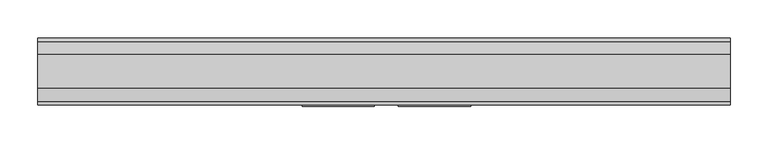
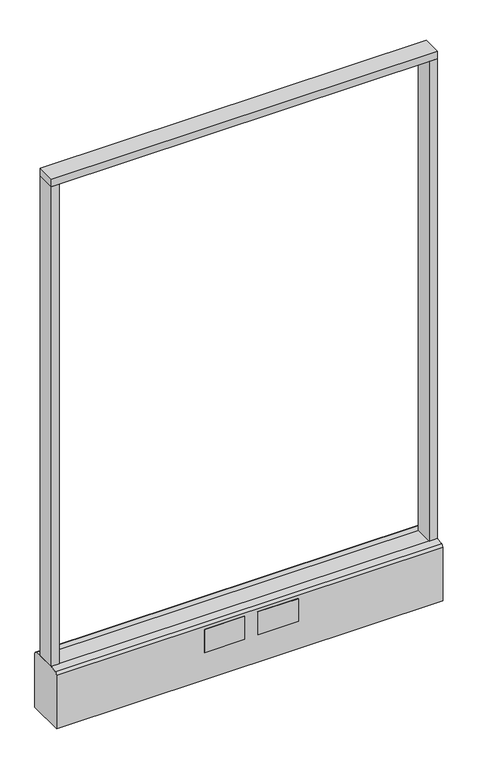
"""IFC4 building model written with IfcOpenShell, lengths in millimetres: furniture geometry."""

from ifc_helpers import new_model, si_unit, point, frame, frame_2d, origin, origin_with_axes, place, context, project, spatial, polyline, circle_curve, trimmed, segment, composite_curve, outline, extrude, source, transform, mapped, element, save


def furniture_1125ae4c(model_context):
    return source(origin(), model_context, "Body", "SweptSolid", [
        extrude(outline(polyline([(457.2, -22.225), (-457.2, -22.225), (-457.2, 22.225), (457.2, 22.225), (457.2, -22.225)])), frame((0.0, 0.0, 1352.55), z_axis=(0.0, 0.0, 1.0), x_axis=(1.0, 0.0, 0.0)), (0.0, 0.0, 1.0), 19.05),
        extrude(outline(composite_curve([segment(trimmed(circle_curve(frame_2d((-381.0, 0.0)), 23.415625), [point((-404.415625, 0.0))], [point((-357.584375, 0.0))], False, "CARTESIAN"), True, "CONTINUOUS"), segment(trimmed(circle_curve(frame_2d((-381.0, 0.0)), 23.415625), [point((-357.584375, 0.0))], [point((-404.415625, 0.0))], False, "CARTESIAN"), True, "CONTINUOUS")], self_intersect=False)), origin_with_axes(), (0.0, 0.0, 1.0), 6.35),
        extrude(outline(composite_curve([segment(trimmed(circle_curve(frame_2d((381.0, 0.0)), 23.415625), [point((357.584375, 0.0))], [point((404.415625, 0.0))], False, "CARTESIAN"), True, "CONTINUOUS"), segment(trimmed(circle_curve(frame_2d((381.0, 0.0)), 23.415625), [point((404.415625, 0.0))], [point((357.584375, 0.0))], False, "CARTESIAN"), True, "CONTINUOUS")], self_intersect=False)), origin_with_axes(), (0.0, 0.0, 1.0), 6.35),
        extrude(outline(polyline([(-438.1500091, -22.225), (-457.2, -22.225), (-457.2, 22.225), (-438.1500091, 22.225), (-438.1500091, -22.225)])), frame((0.0, 0.0, 152.4), z_axis=(0.0, 0.0, 1.0), x_axis=(1.0, 0.0, 0.0)), (0.0, 0.0, 1.0), 1200.15),
        extrude(outline(polyline([(457.2, -22.225), (438.1500091, -22.225), (438.1500091, 22.225), (457.2, 22.225), (457.2, -22.225)])), frame((0.0, 0.0, 152.4), z_axis=(0.0, 0.0, 1.0), x_axis=(1.0, 0.0, 0.0)), (0.0, 0.0, 1.0), 1200.15),
        extrude(outline(composite_curve([segment(polyline([(-22.225, 152.4), (22.225, 152.4), (39.43219, 149.94183)]), True, "CONTINUOUS"), segment(trimmed(circle_curve(frame_2d((38.605678, 144.1562464)), 5.844322), [point((39.43219, 149.94183))], [point((44.45, 144.1562464))], False, "CARTESIAN"), True, "CONTINUOUS"), segment(polyline([(44.45, 144.1562464), (44.45, 9.525), (-44.4433083, 9.525), (-44.4433083, 144.1572033)]), True, "CONTINUOUS"), segment(trimmed(circle_curve(frame_2d((-38.5989863, 144.1572033)), 5.844322), [point((-44.4433083, 144.1572033))], [point((-39.4222979, 149.9432432))], False, "CARTESIAN"), True, "CONTINUOUS"), segment(polyline([(-39.4222979, 149.9432432), (-22.225, 152.4)]), True, "CONTINUOUS")], self_intersect=False)), frame((-457.2, 0.0, 0.0), z_axis=(1.0, 0.0, 0.0), x_axis=(0.0, 1.0, 0.0)), (0.0, 0.0, 1.0), 914.4),
        extrude(outline(polyline([(114.3, -46.0375), (19.05, -46.0375), (19.05, -44.45), (114.3, -44.45), (114.3, -46.0375)])), frame((0.0, 0.0, 79.1718), z_axis=(0.0, 0.0, 1.0), x_axis=(1.0, 0.0, 0.0)), (0.0, 0.0, 1.0), 57.15),
        extrude(outline(polyline([(-12.7, -46.0375), (-107.95, -46.0375), (-107.95, -44.45), (-12.7, -44.45), (-12.7, -46.0375)])), frame((0.0, 0.0, 79.1718), z_axis=(0.0, 0.0, 1.0), x_axis=(1.0, 0.0, 0.0)), (0.0, 0.0, 1.0), 57.15),
        extrude(outline(composite_curve([segment(trimmed(circle_curve(frame_2d((-381.0, 0.0)), 5.55625), [point((-386.55625, 0.0))], [point((-375.44375, 0.0))], False, "CARTESIAN"), True, "CONTINUOUS"), segment(trimmed(circle_curve(frame_2d((-381.0, 0.0)), 5.55625), [point((-375.44375, 0.0))], [point((-386.55625, 0.0))], False, "CARTESIAN"), True, "CONTINUOUS")], self_intersect=False)), frame((0.0, 0.0, 6.35), z_axis=(0.0, 0.0, 1.0), x_axis=(1.0, 0.0, 0.0)), (0.0, 0.0, 1.0), 3.175),
        extrude(outline(composite_curve([segment(trimmed(circle_curve(frame_2d((381.0, 0.0)), 5.55625), [point((375.44375, 0.0))], [point((386.55625, 0.0))], False, "CARTESIAN"), True, "CONTINUOUS"), segment(trimmed(circle_curve(frame_2d((381.0, 0.0)), 5.55625), [point((386.55625, 0.0))], [point((375.44375, 0.0))], False, "CARTESIAN"), True, "CONTINUOUS")], self_intersect=False)), frame((0.0, 0.0, 6.35), z_axis=(0.0, 0.0, 1.0), x_axis=(1.0, 0.0, 0.0)), (0.0, 0.0, 1.0), 3.175),
    ])


if __name__ == "__main__":
    model = new_model("IFC4")
    model_context = context("Model", 3, world=origin())
    ifc_project = project(units=[si_unit("LENGTHUNIT", "METRE", prefix="MILLI")], contexts=[model_context])
    site = spatial("IfcSite", under=ifc_project)
    building = spatial("IfcBuilding", under=site)
    placement = place(None, origin())
    furniture_shape = furniture_1125ae4c(model_context)
    element("IfcFurniture", 1, ObjectType="HermanMiller_Ethospace_E1109_Frame : 54\"H x 36\"W-H", at=placement, inside=building, context=model_context, shape_type="MappedRepresentation", body=[
        mapped(furniture_shape, transform((0.0, 0.0, 0.0), x_axis=(1.0, 0.0, 0.0), y_axis=(0.0, 1.0, 0.0), z_axis=(0.0, 0.0, 1.0))),
    ])
    save(model, "model.ifc")
